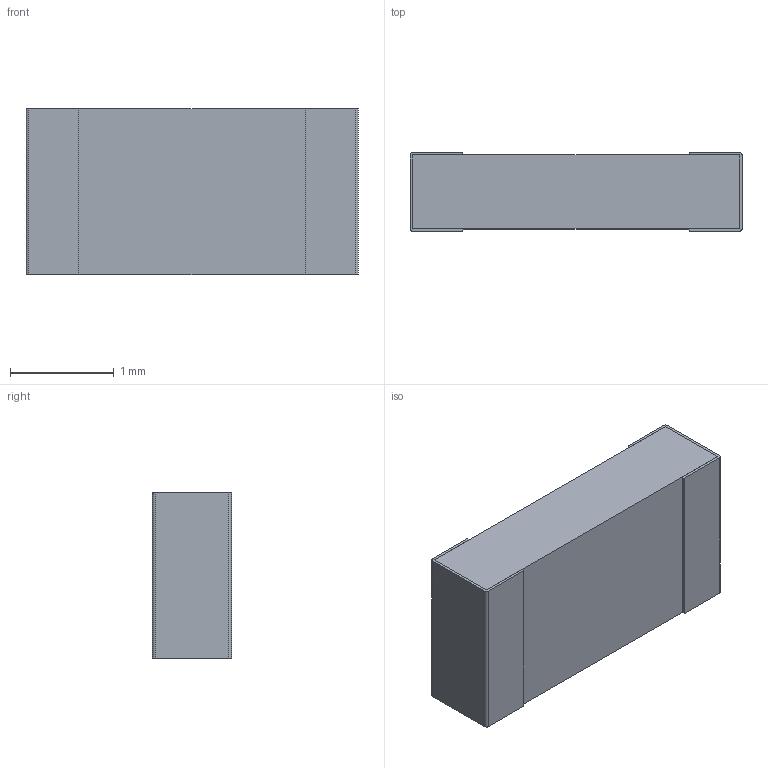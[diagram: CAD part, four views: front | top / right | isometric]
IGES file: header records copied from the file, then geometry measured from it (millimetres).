
Global section: file name: THJP1206A; native system: Autodesk Inventor LT ; preprocessor: unknown; author: Neil; date: 20191203.162003; units: inch
Bounding box: 3.2 x 0.76 x 1.6 mm (x, y, z)
Volume: 3.7 mm3; surface area: 28.2 mm2
Topology: 3 solids, 3 shells, 30 faces, 72 edges, 48 vertices
Faces by surface type: bspline 30
